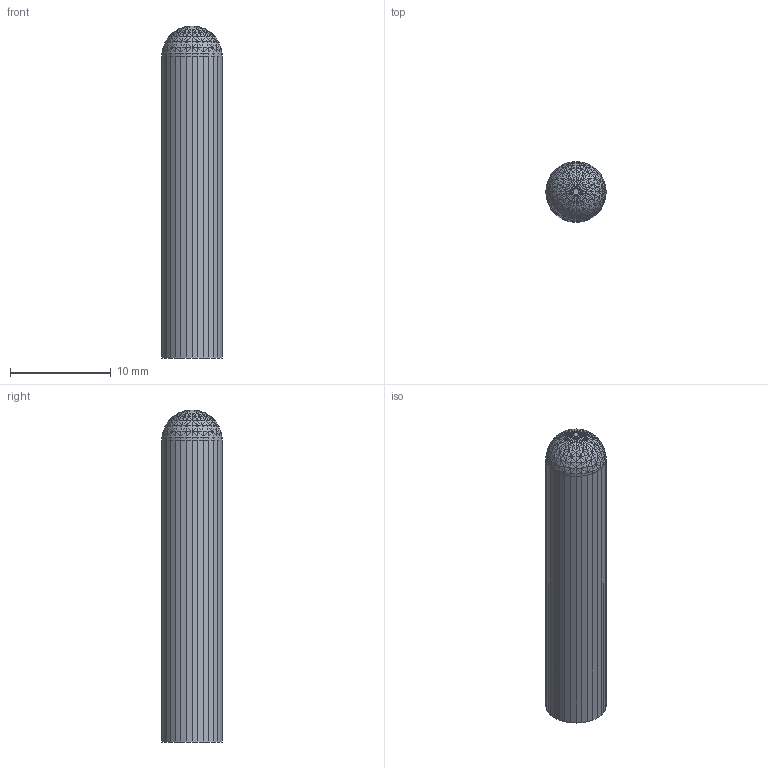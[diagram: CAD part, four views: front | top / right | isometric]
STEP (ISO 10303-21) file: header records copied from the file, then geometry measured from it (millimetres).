
FILE_DESCRIPTION(('Open CASCADE Model'),'2;1');
FILE_NAME('Open CASCADE Shape Model','2026-08-07T13:51:21',('Author'),( 'Open CASCADE'),'Open CASCADE STEP processor 7.9','Open CASCADE 7.9' ,'Unknown');
FILE_SCHEMA(('AUTOMOTIVE_DESIGN { 1 0 10303 214 1 1 1 1 }'));
Length unit declared in the file: millimetre
Products named in the file (1): K型熱電偶探頭(外購)
Bounding box: 6 x 6 x 32.99 mm (x, y, z)
Volume: 898.4 mm3; surface area: 649 mm2
Topology: 1 solids, 1 shells, 515 faces, 864 edges, 352 vertices
Faces by surface type: plane 515
Entity records: 22124 total; most frequent: DIRECTION 3624, CARTESIAN_POINT 3460, LINE 2592, VECTOR 2592, ORIENTED_EDGE 1728, PCURVE 1728, DEFINITIONAL_REPRESENTATION 1728, EDGE_CURVE 864
